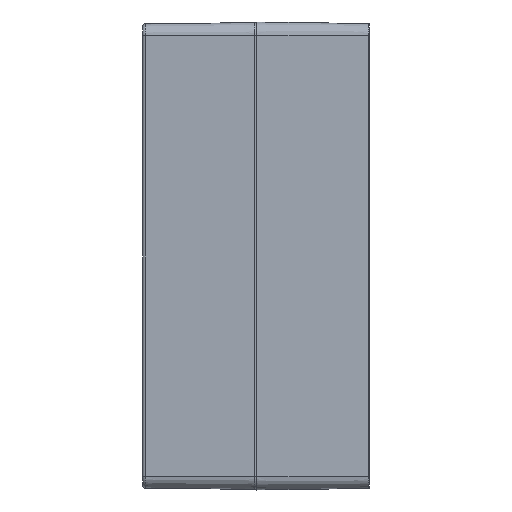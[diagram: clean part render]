
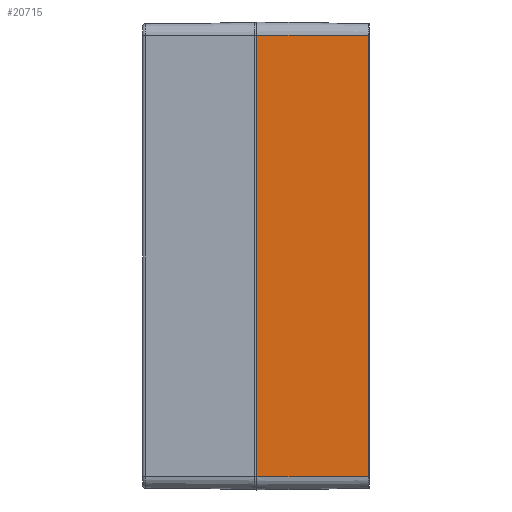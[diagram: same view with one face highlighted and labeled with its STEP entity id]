
A CAD part, left-side view. The second image highlights one B-rep face of the part: STEP entity #20715.
In plain terms, the highlighted planar face has unit normal (-1, -0.014, 0).
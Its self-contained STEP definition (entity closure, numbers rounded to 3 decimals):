
#2137 = VECTOR ( 'NONE', #20504, 1000. ) ;
#3423 = CARTESIAN_POINT ( 'NONE',  ( -149.517, -56.107, 109. ) ) ;
#3896 = ORIENTED_EDGE ( 'NONE', *, *, #43256, .T. ) ;
#6940 = CARTESIAN_POINT ( 'NONE',  ( -150.3, 0., 109. ) ) ;
#7662 = EDGE_CURVE ( 'NONE', #23193, #8915, #37178, .T. ) ;
#8915 = VERTEX_POINT ( 'NONE', #31494 ) ;
#9804 = ORIENTED_EDGE ( 'NONE', *, *, #27028, .T. ) ;
#10094 = CARTESIAN_POINT ( 'NONE',  ( -150.286, -1., 109. ) ) ;
#15133 = EDGE_LOOP ( 'NONE', ( #9804, #19033, #35011, #3896 ) ) ;
#15302 = PLANE ( 'NONE',  #31726 ) ;
#15737 = VECTOR ( 'NONE', #36320, 1000. ) ;
#16578 = LINE ( 'NONE', #6940, #34503 ) ;
#19033 = ORIENTED_EDGE ( 'NONE', *, *, #7662, .T. ) ;
#20504 = DIRECTION ( 'NONE',  ( 0., 0., 1. ) ) ;
#20715 = ADVANCED_FACE ( 'NONE', ( #32189 ), #15302, .T. ) ;
#23193 = VERTEX_POINT ( 'NONE', #10094 ) ;
#24443 = VECTOR ( 'NONE', #31004, 1000. ) ;
#25092 = VERTEX_POINT ( 'NONE', #27678 ) ;
#27028 = EDGE_CURVE ( 'NONE', #25092, #23193, #16578, .T. ) ;
#27121 = DIRECTION ( 'NONE',  ( -0.014, 1., 0. ) ) ;
#27678 = CARTESIAN_POINT ( 'NONE',  ( -149.517, -56.107, 109. ) ) ;
#28684 = CARTESIAN_POINT ( 'NONE',  ( -150.3, 0., 109. ) ) ;
#28901 = DIRECTION ( 'NONE',  ( 0.014, -1., 0. ) ) ;
#31004 = DIRECTION ( 'NONE',  ( -0.014, 1., 0. ) ) ;
#31494 = CARTESIAN_POINT ( 'NONE',  ( -150.286, -1., -109. ) ) ;
#31726 = AXIS2_PLACEMENT_3D ( 'NONE', #28684, #42055, #28901 ) ;
#31883 = LINE ( 'NONE', #41743, #24443 ) ;
#32189 = FACE_OUTER_BOUND ( 'NONE', #15133, .T. ) ;
#33047 = CARTESIAN_POINT ( 'NONE',  ( -150.286, -1., 109. ) ) ;
#34503 = VECTOR ( 'NONE', #27121, 1000. ) ;
#35011 = ORIENTED_EDGE ( 'NONE', *, *, #42247, .F. ) ;
#36320 = DIRECTION ( 'NONE',  ( 0., 0., -1. ) ) ;
#36622 = VERTEX_POINT ( 'NONE', #41126 ) ;
#37151 = LINE ( 'NONE', #3423, #2137 ) ;
#37178 = LINE ( 'NONE', #33047, #15737 ) ;
#41126 = CARTESIAN_POINT ( 'NONE',  ( -149.517, -56.107, -109. ) ) ;
#41743 = CARTESIAN_POINT ( 'NONE',  ( -150.3, 0., -109. ) ) ;
#42055 = DIRECTION ( 'NONE',  ( -1., -0.014, 0. ) ) ;
#42247 = EDGE_CURVE ( 'NONE', #36622, #8915, #31883, .T. ) ;
#43256 = EDGE_CURVE ( 'NONE', #36622, #25092, #37151, .T. ) ;
